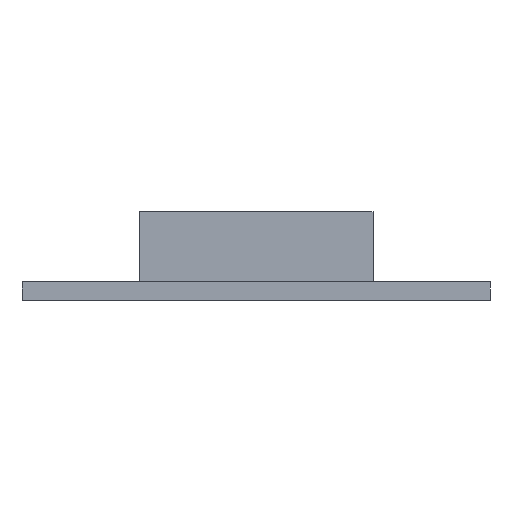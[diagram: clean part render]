
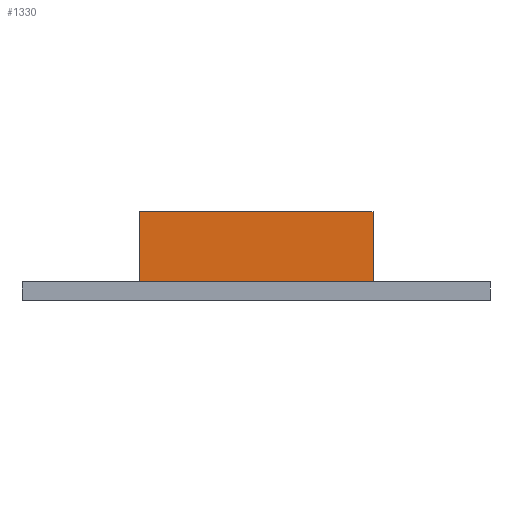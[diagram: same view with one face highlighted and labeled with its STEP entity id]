
A CAD part, left-side view. The second image highlights one B-rep face of the part: STEP entity #1330.
In plain terms, the highlighted planar face has unit normal (-1, 0, 0).
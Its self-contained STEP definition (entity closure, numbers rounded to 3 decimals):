
#239 = CARTESIAN_POINT ( 'NONE',  ( -44.25, -2.5, 1.9 ) ) ;
#272 = EDGE_CURVE ( 'NONE', #911, #753, #1659, .T. ) ;
#277 = ORIENTED_EDGE ( 'NONE', *, *, #896, .F. ) ;
#384 = LINE ( 'NONE', #1576, #969 ) ;
#403 = CARTESIAN_POINT ( 'NONE',  ( -44.25, -2.5, 0.4 ) ) ;
#459 = CARTESIAN_POINT ( 'NONE',  ( -44.25, -2.5, 0.4 ) ) ;
#597 = VERTEX_POINT ( 'NONE', #403 ) ;
#605 = VECTOR ( 'NONE', #1734, 1000. ) ;
#609 = LINE ( 'NONE', #459, #1173 ) ;
#625 = DIRECTION ( 'NONE',  ( 0., 0., -1. ) ) ;
#705 = DIRECTION ( 'NONE',  ( 0., -1., 0. ) ) ;
#753 = VERTEX_POINT ( 'NONE', #1513 ) ;
#832 = ORIENTED_EDGE ( 'NONE', *, *, #1933, .T. ) ;
#884 = VERTEX_POINT ( 'NONE', #1368 ) ;
#890 = ORIENTED_EDGE ( 'NONE', *, *, #272, .T. ) ;
#896 = EDGE_CURVE ( 'NONE', #911, #884, #1393, .T. ) ;
#911 = VERTEX_POINT ( 'NONE', #1552 ) ;
#933 = VECTOR ( 'NONE', #625, 1000. ) ;
#969 = VECTOR ( 'NONE', #1586, 1000. ) ;
#1045 = ORIENTED_EDGE ( 'NONE', *, *, #1272, .F. ) ;
#1161 = DIRECTION ( 'NONE',  ( 0., 0., -1. ) ) ;
#1173 = VECTOR ( 'NONE', #705, 1000. ) ;
#1272 = EDGE_CURVE ( 'NONE', #884, #597, #384, .T. ) ;
#1330 = ADVANCED_FACE ( 'NONE', ( #1432 ), #1863, .F. ) ;
#1368 = CARTESIAN_POINT ( 'NONE',  ( -44.25, -2.5, 1.9 ) ) ;
#1393 = LINE ( 'NONE', #1581, #605 ) ;
#1399 = EDGE_LOOP ( 'NONE', ( #832, #1045, #277, #890 ) ) ;
#1432 = FACE_OUTER_BOUND ( 'NONE', #1399, .T. ) ;
#1441 = DIRECTION ( 'NONE',  ( 1., 0., 0. ) ) ;
#1513 = CARTESIAN_POINT ( 'NONE',  ( -44.25, 2.5, 0.4 ) ) ;
#1530 = AXIS2_PLACEMENT_3D ( 'NONE', #239, #1441, #1161 ) ;
#1552 = CARTESIAN_POINT ( 'NONE',  ( -44.25, 2.5, 1.9 ) ) ;
#1576 = CARTESIAN_POINT ( 'NONE',  ( -44.25, -2.5, 1.9 ) ) ;
#1581 = CARTESIAN_POINT ( 'NONE',  ( -44.25, -2.5, 1.9 ) ) ;
#1586 = DIRECTION ( 'NONE',  ( 0., 0., -1. ) ) ;
#1659 = LINE ( 'NONE', #1790, #933 ) ;
#1734 = DIRECTION ( 'NONE',  ( 0., -1., 0. ) ) ;
#1790 = CARTESIAN_POINT ( 'NONE',  ( -44.25, 2.5, 1.9 ) ) ;
#1863 = PLANE ( 'NONE',  #1530 ) ;
#1933 = EDGE_CURVE ( 'NONE', #753, #597, #609, .T. ) ;
